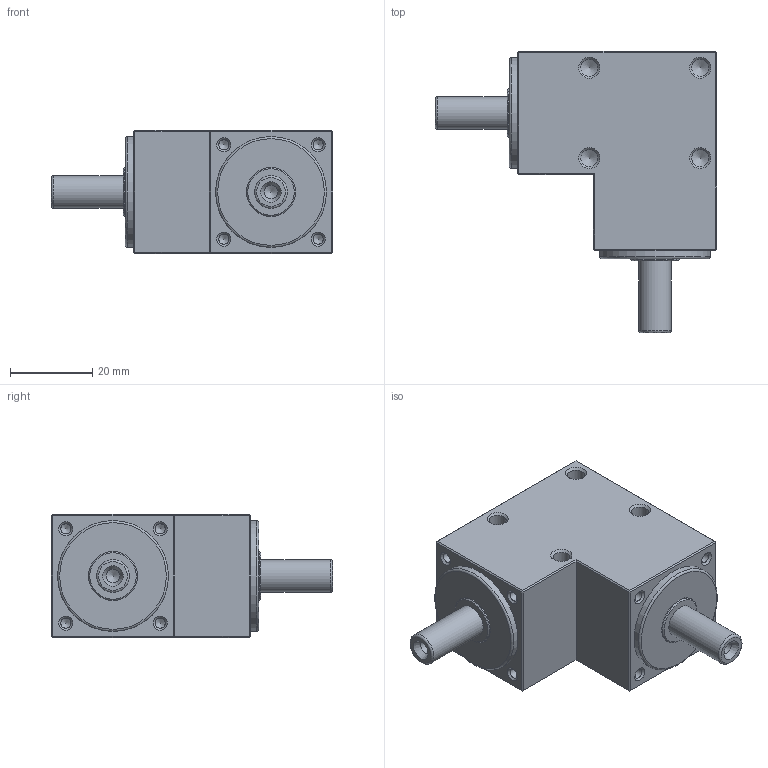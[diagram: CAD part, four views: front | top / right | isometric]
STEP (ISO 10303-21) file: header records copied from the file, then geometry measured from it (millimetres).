
FILE_DESCRIPTION((''),'2;1');
FILE_NAME('D:\유성\SBT 베벨기어박스\최종도면모음\3D\SBT030\SBT030LS001S.stp','2014-05-16T11:53:02',('nagyu'),(''),'Autodesk Inventor 2013','Autodesk Inventor 2013','');
FILE_SCHEMA(('AUTOMOTIVE_DESIGN { 1 0 10303 214 1 1 1 1 }'));
Length unit declared in the file: millimetre
Products named in the file (1): SBT030LS001S
Bounding box: 68.5 x 68.5 x 30 mm (x, y, z)
Volume: 63297.9 mm3; surface area: 12114.5 mm2
Topology: 1 solids, 1 shells, 107 faces, 223 edges, 124 vertices
Faces by surface type: plane 41, cone 38, cylinder 24, torus 4
Full cylindrical faces by diameter (mm): 2.459 x8, 3.242 x2, 4.134 x8, 8 x2, 11.9 x2, 27 x2
Entity records: 2291 total; most frequent: DIRECTION 427, CARTESIAN_POINT 353, ORIENTED_EDGE 278, AXIS2_PLACEMENT_3D 180, EDGE_LOOP 179, EDGE_CURVE 139, FACE_OUTER_BOUND 107, ADVANCED_FACE 107
